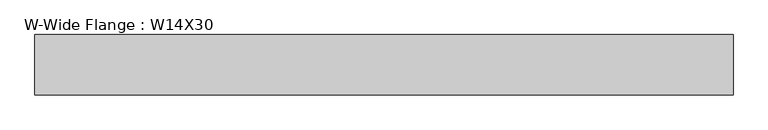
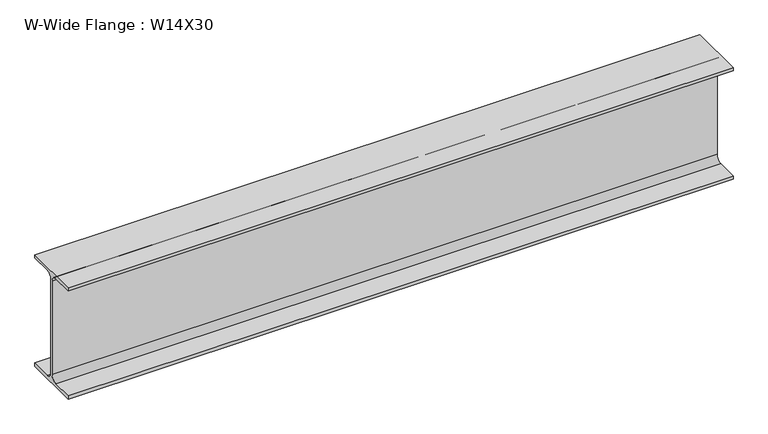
"""IFC4 building model written with IfcOpenShell, lengths in millimetres: beam geometry, W-Wide Flange : W14X30."""

from ifc_helpers import new_model, si_unit, point, frame, frame_2d, origin, place, context, project, spatial, polyline, circle_curve, trimmed, segment, composite_curve, outline, extrude, source, transform, mapped, element, save


def w_wide_flange_w14x30_957304bb(model_context):
    return source(origin(), model_context, "Body", "SweptSolid", [
        extrude(outline(composite_curve([segment(polyline([(85.471, -165.481), (85.471, -175.26), (-85.471, -175.26), (-85.471, -165.481), (-22.225, -165.481)]), True, "CONTINUOUS"), segment(trimmed(circle_curve(frame_2d((-22.225, -146.685)), 18.796), [point((-22.225, -165.481))], [point((-3.429, -146.685))], True, "CARTESIAN"), True, "CONTINUOUS"), segment(polyline([(-3.429, -146.685), (-3.429, 146.685)]), True, "CONTINUOUS"), segment(trimmed(circle_curve(frame_2d((-22.225, 146.685)), 18.796), [point((-3.429, 146.685))], [point((-22.225, 165.481))], True, "CARTESIAN"), True, "CONTINUOUS"), segment(polyline([(-22.225, 165.481), (-85.471, 165.481), (-85.471, 175.26), (85.471, 175.26), (85.471, 165.481), (22.225, 165.481)]), True, "CONTINUOUS"), segment(trimmed(circle_curve(frame_2d((22.225, 146.685)), 18.796), [point((22.225, 165.481))], [point((3.429, 146.685))], True, "CARTESIAN"), True, "CONTINUOUS"), segment(polyline([(3.429, 146.685), (3.429, -146.685)]), True, "CONTINUOUS"), segment(trimmed(circle_curve(frame_2d((22.225, -146.685)), 18.796), [point((3.429, -146.685))], [point((22.225, -165.481))], True, "CARTESIAN"), True, "CONTINUOUS"), segment(polyline([(22.225, -165.481), (85.471, -165.481)]), True, "CONTINUOUS")], self_intersect=False)), frame((-989.3275736, 0.0, 0.0), z_axis=(1.0, 0.0, 0.0), x_axis=(0.0, 1.0, 0.0)), (0.0, 0.0, 1.0), 1978.6551472),
    ])


if __name__ == "__main__":
    model = new_model("IFC4")
    model_context = context("Model", 3, world=origin())
    ifc_project = project(units=[si_unit("LENGTHUNIT", "METRE", prefix="MILLI")], contexts=[model_context])
    site = spatial("IfcSite", under=ifc_project)
    building = spatial("IfcBuilding", under=site)
    placement = place(None, origin())
    w_wide_flange_w14x30_shape = w_wide_flange_w14x30_957304bb(model_context)
    element("IfcBeam", 1, ObjectType="W-Wide Flange : W14X30", at=placement, inside=building, context=model_context, shape_type="MappedRepresentation", body=[
        mapped(w_wide_flange_w14x30_shape, transform((0.0, 0.0, 0.0), x_axis=(1.0, 0.0, 0.0), y_axis=(0.0, 1.0, 0.0), z_axis=(0.0, 0.0, 1.0))),
    ])
    save(model, "model.ifc")
